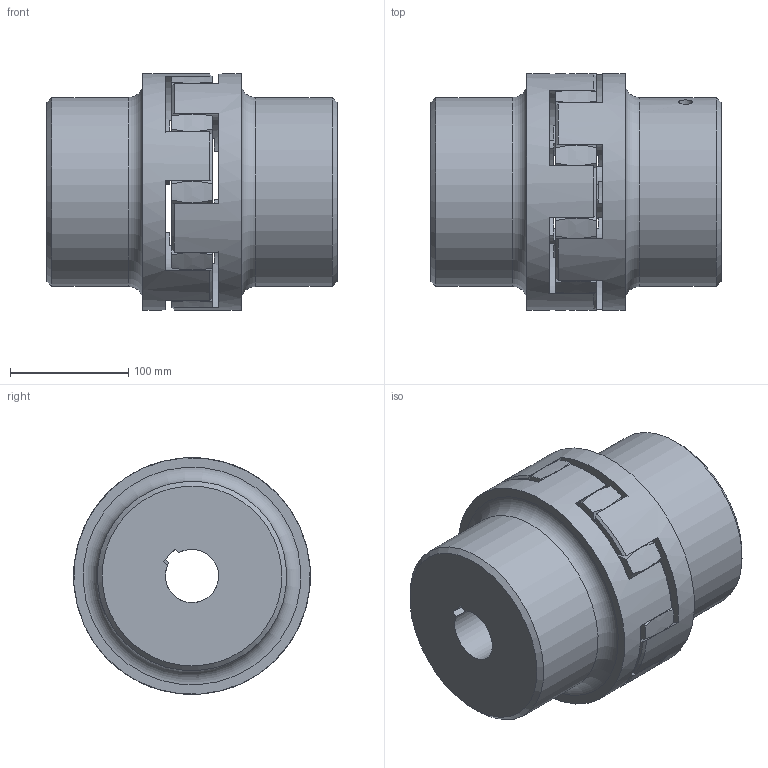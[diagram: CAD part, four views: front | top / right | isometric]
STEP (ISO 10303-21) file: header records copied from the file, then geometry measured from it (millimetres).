
FILE_DESCRIPTION(/* description */ (''),/* implementation_level */ '2;1');
FILE_NAME(/* name */ 'RP90-45-PF-45-PF',/* time_stamp */ '2024-01-05T15:31:16+01:00',/* author */ ('M. Horlacher'),/* organization */ (''),/* preprocessor_version */ 'ST-DEVELOPER v20',/* originating_system */ 'Autodesk Inventor 2024',/* authorisation */ '');
FILE_SCHEMA (('AUTOMOTIVE_DESIGN { 1 0 10303 214 3 1 1 }'));
Length unit declared in the file: millimetre
Products named in the file (4): RP STEP; RP90-Stern-92Shore; RP90 ø45H7-PF-GG; RP90 ø45H7-PF-GG_1
Assembly tree (3 placements, depth 2):
  RP STEP
    RP90-Stern-92Shore
    RP90 ø45H7-PF-GG
    RP90 ø45H7-PF-GG_1
Bounding box: 245 x 200 x 199.51 mm (x, y, z)
Volume: 4942079.8 mm3; surface area: 385886.2 mm2
Topology: 3 solids, 3 shells, 139 faces, 387 edges, 258 vertices
Faces by surface type: cylinder 49, bspline 40, plane 36, cone 12, torus 2
Full cylindrical faces by diameter (mm): 12 x2, 100 x1, 160 x2, 200 x2
Entity records: 6066 total; most frequent: CARTESIAN_POINT 2476, ORIENTED_EDGE 774, DIRECTION 689, EDGE_CURVE 387, AXIS2_PLACEMENT_3D 300, VERTEX_POINT 258, CIRCLE 174, EDGE_LOOP 149
